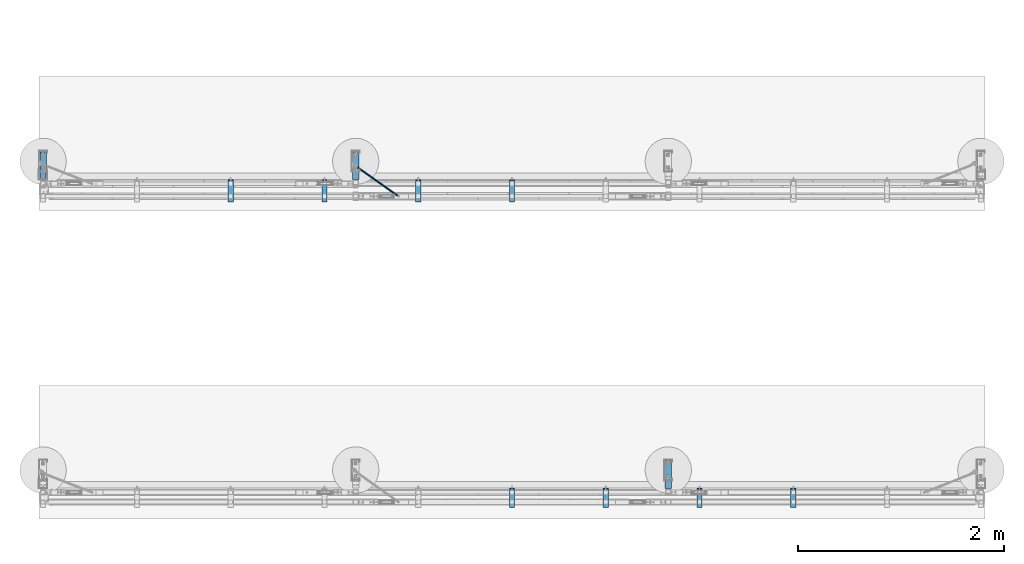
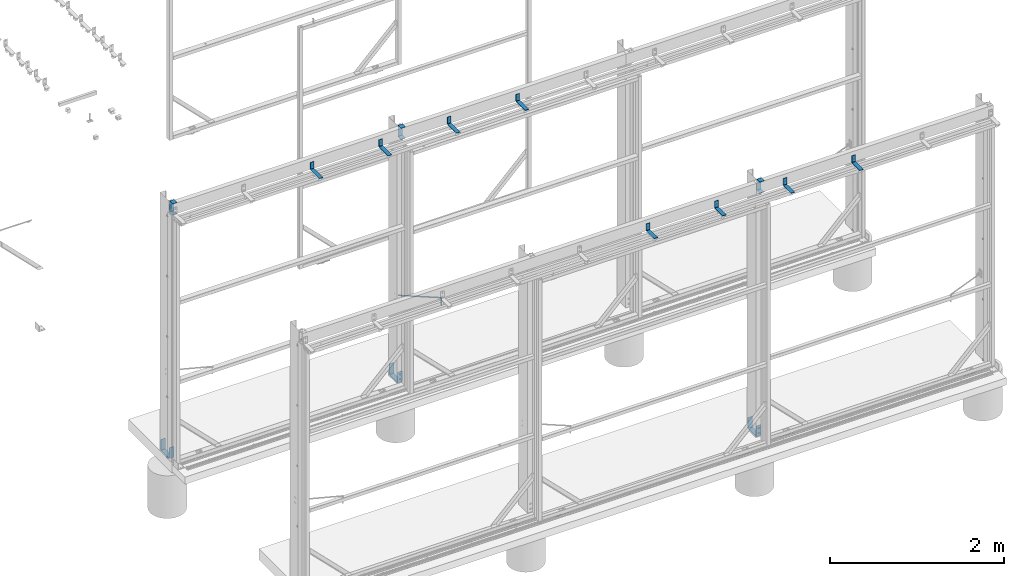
# One storey, part 81 of 91: 15 beams, 15 elements without a shape of their own.
"""IFC2X3 building model written with IfcOpenShell, lengths in millimetres."""

from ifc_helpers import new_model, si_unit, frame, origin_with_axes, place, context, subcontext, project, spatial, faceted_brep, material, type_object, element, aggregate, save


model = new_model("IFC2X3")

# Units and contexts
model_context = context("Model", 3, precision=1e-05, world=origin_with_axes())
body_context = subcontext(model_context, "Body", "Model", "MODEL_VIEW")
ifc_project = project(units=[si_unit("LENGTHUNIT", "METRE", prefix="MILLI"), si_unit("AREAUNIT", "SQUARE_METRE"), si_unit("VOLUMEUNIT", "CUBIC_METRE"), si_unit("MASSUNIT", "GRAM", prefix="KILO"), si_unit("TIMEUNIT", "SECOND"), si_unit("PLANEANGLEUNIT", "RADIAN"), si_unit("SOLIDANGLEUNIT", "STERADIAN"), si_unit("THERMODYNAMICTEMPERATUREUNIT", "DEGREE_CELSIUS"), si_unit("LUMINOUSINTENSITYUNIT", "LUMEN")], contexts=[model_context])

# Site, building, storey
site_placement = place(None, origin_with_axes())
site = spatial("IfcSite", under=ifc_project, at=site_placement, Name="Undefined", CompositionType="ELEMENT")
building_placement = place(site_placement, origin_with_axes())
building = spatial("IfcBuilding", under=site, at=building_placement, Name="Undefined", CompositionType="ELEMENT")
storey_placement = place(building_placement, origin_with_axes())
storey = spatial("IfcBuildingStorey", under=building, at=storey_placement, Name="Undefined", CompositionType="ELEMENT", Elevation=0.0)

# Assembly, beam
assembly_1_placement = place(storey_placement, origin_with_axes())
assembly_1 = element("IfcElementAssembly", 1, at=assembly_1_placement, inside=storey, Name="DOOR BRACKET", AssemblyPlace="NOTDEFINED", PredefinedType="RIGID_FRAME")
ifc_material_1 = material(Name="STEEL/250")
beam_type_1 = type_object("IfcBeamType", Name="FL6*50", PredefinedType="NOTDEFINED")
beam_1_placement = place(assembly_1_placement, frame((-112239.59, 87749.15, 3544.0), z_axis=(1.0, 0.0, 0.0), x_axis=(0.0, 0.0, -1.0)))
beam_1 = element("IfcBeam", 2, at=beam_1_placement, type_object=beam_type_1, material=ifc_material_1, Name="DOOR BRACKET", ObjectType="FL6*50", context=body_context, shape_type="Brep", body=[
    faceted_brep([(0.0, 3.0, -25.0), (0.0, 3.0, 25.0), (88.0, 3.0, 25.0), (88.0000000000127, 3.00000000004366, -25.0), (0.0, -3.0, 25.0), (0.0, -3.0, -25.0), (88.0, -3.0, -25.0), (88.0, -3.0, 25.0), (93.9999999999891, 1.39230484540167, 25.0), (93.9999999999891, 1.39230484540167, -25.0), (90.9999999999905, -3.8038475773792, -25.0), (90.9999999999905, -3.8038475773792, 25.0), (93.1961524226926, -6.00000000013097, -25.0), (93.1961524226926, -6.00000000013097, 25.0), (98.3923048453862, -3.00000000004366, 25.0), (98.3923048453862, -3.00000000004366, -25.0), (93.9999999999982, -9.00000000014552, -25.0), (93.9999999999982, -9.00000000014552, 25.0), (100.000000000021, -9.00000000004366, 25.0), (100.0, -9.0, -25.0), (100.0, -215.0, 25.0), (100.0, -215.0, -25.0), (94.0, -215.0, 25.0), (94.0, -215.0, -25.0)], [[[0, 1, 2, 3]], [[4, 5, 6, 7]], [[5, 4, 1, 0]], [[3, 2, 8, 9]], [[7, 6, 10, 11]], [[10, 12, 13, 11]], [[8, 14, 15, 9]], [[12, 16, 17, 13]], [[14, 18, 19, 15]], [[19, 18, 20, 21]], [[18, 14, 8, 2, 1, 4, 7, 11, 13, 17, 22, 20]], [[17, 16, 23, 22]], [[16, 12, 10, 6, 5, 0, 3, 9, 15, 19, 21, 23]], [[22, 23, 21, 20]]]),
])
aggregate(assembly_1, [beam_1])

assembly_2_placement = place(storey_placement, origin_with_axes())
assembly_2 = element("IfcElementAssembly", 3, at=assembly_2_placement, inside=storey, Name="DOOR BRACKET", AssemblyPlace="NOTDEFINED", PredefinedType="RIGID_FRAME")
beam_2_placement = place(assembly_2_placement, frame((-113150.84, 87749.15, 3544.0), z_axis=(1.0, 0.0, 0.0), x_axis=(0.0, 0.0, -1.0)))
beam_2 = element("IfcBeam", 4, at=beam_2_placement, type_object=beam_type_1, material=ifc_material_1, Name="DOOR BRACKET", ObjectType="FL6*50", context=body_context, shape_type="Brep", body=[
    faceted_brep([(0.0, 3.0, -25.0), (0.0, 3.0, 25.0), (88.0, 3.0, 25.0), (88.0000000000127, 3.00000000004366, -25.0), (0.0, -3.0, 25.0), (0.0, -3.0, -25.0), (88.0, -3.0, -25.0), (88.0, -3.0, 25.0), (93.9999999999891, 1.39230484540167, 25.0), (93.9999999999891, 1.39230484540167, -25.0), (90.9999999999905, -3.8038475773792, -25.0), (90.9999999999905, -3.8038475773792, 25.0), (93.1961524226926, -6.00000000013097, -25.0), (93.1961524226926, -6.00000000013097, 25.0), (98.3923048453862, -3.00000000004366, 25.0), (98.3923048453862, -3.00000000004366, -25.0), (93.9999999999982, -9.00000000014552, -25.0), (93.9999999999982, -9.00000000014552, 25.0), (100.000000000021, -9.00000000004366, 25.0), (100.0, -9.0, -25.0), (100.0, -215.0, 25.0), (100.0, -215.0, -25.0), (94.0, -215.0, 25.0), (94.0, -215.0, -25.0)], [[[0, 1, 2, 3]], [[4, 5, 6, 7]], [[5, 4, 1, 0]], [[3, 2, 8, 9]], [[7, 6, 10, 11]], [[10, 12, 13, 11]], [[8, 14, 15, 9]], [[12, 16, 17, 13]], [[14, 18, 19, 15]], [[19, 18, 20, 21]], [[18, 14, 8, 2, 1, 4, 7, 11, 13, 17, 22, 20]], [[17, 16, 23, 22]], [[16, 12, 10, 6, 5, 0, 3, 9, 15, 19, 21, 23]], [[22, 23, 21, 20]]]),
])
aggregate(assembly_2, [beam_2])

assembly_3_placement = place(storey_placement, origin_with_axes())
assembly_3 = element("IfcElementAssembly", 5, at=assembly_3_placement, inside=storey, Name="DOOR BRACKET", AssemblyPlace="NOTDEFINED", PredefinedType="RIGID_FRAME")
beam_3_placement = place(assembly_3_placement, frame((-114062.09, 87749.15, 3544.0), z_axis=(1.0, 0.0, 0.0), x_axis=(0.0, 0.0, -1.0)))
beam_3 = element("IfcBeam", 6, at=beam_3_placement, type_object=beam_type_1, material=ifc_material_1, Name="DOOR BRACKET", ObjectType="FL6*50", context=body_context, shape_type="Brep", body=[
    faceted_brep([(0.0, 3.0, -25.0), (0.0, 3.0, 25.0), (88.0, 3.0, 25.0), (88.0000000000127, 3.00000000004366, -25.0), (0.0, -3.0, 25.0), (0.0, -3.0, -25.0), (88.0, -3.0, -25.0), (88.0, -3.0, 25.0), (93.9999999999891, 1.39230484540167, 25.0), (93.9999999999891, 1.39230484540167, -25.0), (90.9999999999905, -3.8038475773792, -25.0), (90.9999999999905, -3.8038475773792, 25.0), (93.1961524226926, -6.00000000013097, -25.0), (93.1961524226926, -6.00000000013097, 25.0), (98.3923048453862, -3.00000000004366, 25.0), (98.3923048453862, -3.00000000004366, -25.0), (93.9999999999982, -9.00000000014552, -25.0), (93.9999999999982, -9.00000000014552, 25.0), (100.000000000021, -9.00000000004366, 25.0), (100.0, -9.0, -25.0), (100.0, -215.0, 25.0), (100.0, -215.0, -25.0), (94.0, -215.0, 25.0), (94.0, -215.0, -25.0)], [[[0, 1, 2, 3]], [[4, 5, 6, 7]], [[5, 4, 1, 0]], [[3, 2, 8, 9]], [[7, 6, 10, 11]], [[10, 12, 13, 11]], [[8, 14, 15, 9]], [[12, 16, 17, 13]], [[14, 18, 19, 15]], [[19, 18, 20, 21]], [[18, 14, 8, 2, 1, 4, 7, 11, 13, 17, 22, 20]], [[17, 16, 23, 22]], [[16, 12, 10, 6, 5, 0, 3, 9, 15, 19, 21, 23]], [[22, 23, 21, 20]]]),
])
aggregate(assembly_3, [beam_3])

assembly_4_placement = place(storey_placement, origin_with_axes())
assembly_4 = element("IfcElementAssembly", 7, at=assembly_4_placement, inside=storey, Name="DOOR BRACKET", AssemblyPlace="NOTDEFINED", PredefinedType="RIGID_FRAME")
beam_4_placement = place(assembly_4_placement, frame((-114973.34, 87749.15, 3544.0), z_axis=(1.0, 0.0, 0.0), x_axis=(0.0, 0.0, -1.0)))
beam_4 = element("IfcBeam", 8, at=beam_4_placement, type_object=beam_type_1, material=ifc_material_1, Name="DOOR BRACKET", ObjectType="FL6*50", context=body_context, shape_type="Brep", body=[
    faceted_brep([(0.0, 3.0, -25.0), (0.0, 3.0, 25.0), (88.0, 3.0, 25.0), (88.0000000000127, 3.00000000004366, -25.0), (0.0, -3.0, 25.0), (0.0, -3.0, -25.0), (88.0, -3.0, -25.0), (88.0, -3.0, 25.0), (93.9999999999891, 1.39230484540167, 25.0), (93.9999999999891, 1.39230484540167, -25.0), (90.9999999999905, -3.8038475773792, -25.0), (90.9999999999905, -3.8038475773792, 25.0), (93.1961524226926, -6.00000000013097, -25.0), (93.1961524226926, -6.00000000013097, 25.0), (98.3923048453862, -3.00000000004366, 25.0), (98.3923048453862, -3.00000000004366, -25.0), (93.9999999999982, -9.00000000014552, -25.0), (93.9999999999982, -9.00000000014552, 25.0), (100.000000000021, -9.00000000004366, 25.0), (100.0, -9.0, -25.0), (100.0, -215.0, 25.0), (100.0, -215.0, -25.0), (94.0, -215.0, 25.0), (94.0, -215.0, -25.0)], [[[0, 1, 2, 3]], [[4, 5, 6, 7]], [[5, 4, 1, 0]], [[3, 2, 8, 9]], [[7, 6, 10, 11]], [[10, 12, 13, 11]], [[8, 14, 15, 9]], [[12, 16, 17, 13]], [[14, 18, 19, 15]], [[19, 18, 20, 21]], [[18, 14, 8, 2, 1, 4, 7, 11, 13, 17, 22, 20]], [[17, 16, 23, 22]], [[16, 12, 10, 6, 5, 0, 3, 9, 15, 19, 21, 23]], [[22, 23, 21, 20]]]),
])
aggregate(assembly_4, [beam_4])

assembly_5_placement = place(storey_placement, origin_with_axes())
assembly_5 = element("IfcElementAssembly", 9, at=assembly_5_placement, inside=storey, Name="DOOR BRACKET", AssemblyPlace="NOTDEFINED", PredefinedType="RIGID_FRAME")
beam_5_placement = place(assembly_5_placement, frame((-109505.84, 84749.15, 3544.0), z_axis=(1.0, 0.0, 0.0), x_axis=(0.0, 0.0, -1.0)))
beam_5 = element("IfcBeam", 10, at=beam_5_placement, type_object=beam_type_1, material=ifc_material_1, Name="DOOR BRACKET", ObjectType="FL6*50", context=body_context, shape_type="Brep", body=[
    faceted_brep([(0.0, 3.0, -25.0), (0.0, 3.0, 25.0), (88.0, 3.0, 25.0), (88.0000000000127, 3.00000000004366, -25.0), (0.0, -3.0, 25.0), (0.0, -3.0, -25.0), (88.0, -3.0, -25.0), (88.0, -3.0, 25.0), (93.9999999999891, 1.39230484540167, 25.0), (93.9999999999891, 1.39230484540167, -25.0), (90.9999999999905, -3.8038475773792, -25.0), (90.9999999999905, -3.8038475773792, 25.0), (93.1961524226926, -6.00000000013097, -25.0), (93.1961524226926, -6.00000000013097, 25.0), (98.3923048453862, -3.00000000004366, 25.0), (98.3923048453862, -3.00000000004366, -25.0), (93.9999999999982, -9.00000000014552, -25.0), (93.9999999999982, -9.00000000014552, 25.0), (100.000000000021, -9.00000000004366, 25.0), (100.0, -9.0, -25.0), (100.0, -185.0, 25.0), (100.0, -185.0, -25.0), (94.0, -185.0, 25.0), (94.0, -185.0, -25.0)], [[[0, 1, 2, 3]], [[4, 5, 6, 7]], [[5, 4, 1, 0]], [[3, 2, 8, 9]], [[7, 6, 10, 11]], [[10, 12, 13, 11]], [[8, 14, 15, 9]], [[12, 16, 17, 13]], [[14, 18, 19, 15]], [[19, 18, 20, 21]], [[18, 14, 8, 2, 1, 4, 7, 11, 13, 17, 22, 20]], [[17, 16, 23, 22]], [[16, 12, 10, 6, 5, 0, 3, 9, 15, 19, 21, 23]], [[22, 23, 21, 20]]]),
])
aggregate(assembly_5, [beam_5])

assembly_6_placement = place(storey_placement, origin_with_axes())
assembly_6 = element("IfcElementAssembly", 11, at=assembly_6_placement, inside=storey, Name="DOOR BRACKET", AssemblyPlace="NOTDEFINED", PredefinedType="RIGID_FRAME")
beam_6_placement = place(assembly_6_placement, frame((-110417.09, 84749.15, 3544.0), z_axis=(1.0, 0.0, 0.0), x_axis=(0.0, 0.0, -1.0)))
beam_6 = element("IfcBeam", 12, at=beam_6_placement, type_object=beam_type_1, material=ifc_material_1, Name="DOOR BRACKET", ObjectType="FL6*50", context=body_context, shape_type="Brep", body=[
    faceted_brep([(0.0, 3.0, -25.0), (0.0, 3.0, 25.0), (88.0, 3.0, 25.0), (88.0000000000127, 3.00000000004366, -25.0), (0.0, -3.0, 25.0), (0.0, -3.0, -25.0), (88.0, -3.0, -25.0), (88.0, -3.0, 25.0), (93.9999999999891, 1.39230484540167, 25.0), (93.9999999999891, 1.39230484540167, -25.0), (90.9999999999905, -3.8038475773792, -25.0), (90.9999999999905, -3.8038475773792, 25.0), (93.1961524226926, -6.00000000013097, -25.0), (93.1961524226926, -6.00000000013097, 25.0), (98.3923048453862, -3.00000000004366, 25.0), (98.3923048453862, -3.00000000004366, -25.0), (93.9999999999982, -9.00000000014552, -25.0), (93.9999999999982, -9.00000000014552, 25.0), (100.000000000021, -9.00000000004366, 25.0), (100.0, -9.0, -25.0), (100.0, -185.0, 25.0), (100.0, -185.0, -25.0), (94.0, -185.0, 25.0), (94.0, -185.0, -25.0)], [[[0, 1, 2, 3]], [[4, 5, 6, 7]], [[5, 4, 1, 0]], [[3, 2, 8, 9]], [[7, 6, 10, 11]], [[10, 12, 13, 11]], [[8, 14, 15, 9]], [[12, 16, 17, 13]], [[14, 18, 19, 15]], [[19, 18, 20, 21]], [[18, 14, 8, 2, 1, 4, 7, 11, 13, 17, 22, 20]], [[17, 16, 23, 22]], [[16, 12, 10, 6, 5, 0, 3, 9, 15, 19, 21, 23]], [[22, 23, 21, 20]]]),
])
aggregate(assembly_6, [beam_6])

assembly_7_placement = place(storey_placement, origin_with_axes())
assembly_7 = element("IfcElementAssembly", 13, at=assembly_7_placement, inside=storey, Name="DOOR BRACKET", AssemblyPlace="NOTDEFINED", PredefinedType="RIGID_FRAME")
beam_7_placement = place(assembly_7_placement, frame((-111328.34, 84749.15, 3544.0), z_axis=(1.0, 0.0, 0.0), x_axis=(0.0, 0.0, -1.0)))
beam_7 = element("IfcBeam", 14, at=beam_7_placement, type_object=beam_type_1, material=ifc_material_1, Name="DOOR BRACKET", ObjectType="FL6*50", context=body_context, shape_type="Brep", body=[
    faceted_brep([(0.0, 3.0, -25.0), (0.0, 3.0, 25.0), (88.0, 3.0, 25.0), (88.0000000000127, 3.00000000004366, -25.0), (0.0, -3.0, 25.0), (0.0, -3.0, -25.0), (88.0, -3.0, -25.0), (88.0, -3.0, 25.0), (93.9999999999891, 1.39230484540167, 25.0), (93.9999999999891, 1.39230484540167, -25.0), (90.9999999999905, -3.8038475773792, -25.0), (90.9999999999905, -3.8038475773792, 25.0), (93.1961524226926, -6.00000000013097, -25.0), (93.1961524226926, -6.00000000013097, 25.0), (98.3923048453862, -3.00000000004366, 25.0), (98.3923048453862, -3.00000000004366, -25.0), (93.9999999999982, -9.00000000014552, -25.0), (93.9999999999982, -9.00000000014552, 25.0), (100.000000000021, -9.00000000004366, 25.0), (100.0, -9.0, -25.0), (100.0, -185.0, 25.0), (100.0, -185.0, -25.0), (94.0, -185.0, 25.0), (94.0, -185.0, -25.0)], [[[0, 1, 2, 3]], [[4, 5, 6, 7]], [[5, 4, 1, 0]], [[3, 2, 8, 9]], [[7, 6, 10, 11]], [[10, 12, 13, 11]], [[8, 14, 15, 9]], [[12, 16, 17, 13]], [[14, 18, 19, 15]], [[19, 18, 20, 21]], [[18, 14, 8, 2, 1, 4, 7, 11, 13, 17, 22, 20]], [[17, 16, 23, 22]], [[16, 12, 10, 6, 5, 0, 3, 9, 15, 19, 21, 23]], [[22, 23, 21, 20]]]),
])
aggregate(assembly_7, [beam_7])

assembly_8_placement = place(storey_placement, origin_with_axes())
assembly_8 = element("IfcElementAssembly", 15, at=assembly_8_placement, inside=storey, Name="DOOR BRACKET", AssemblyPlace="NOTDEFINED", PredefinedType="RIGID_FRAME")
beam_8_placement = place(assembly_8_placement, frame((-112239.59, 84749.15, 3544.0), z_axis=(1.0, 0.0, 0.0), x_axis=(0.0, 0.0, -1.0)))
beam_8 = element("IfcBeam", 16, at=beam_8_placement, type_object=beam_type_1, material=ifc_material_1, Name="DOOR BRACKET", ObjectType="FL6*50", context=body_context, shape_type="Brep", body=[
    faceted_brep([(0.0, 3.0, -25.0), (0.0, 3.0, 25.0), (88.0, 3.0, 25.0), (88.0000000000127, 3.00000000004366, -25.0), (0.0, -3.0, 25.0), (0.0, -3.0, -25.0), (88.0, -3.0, -25.0), (88.0, -3.0, 25.0), (93.9999999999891, 1.39230484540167, 25.0), (93.9999999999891, 1.39230484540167, -25.0), (90.9999999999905, -3.8038475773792, -25.0), (90.9999999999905, -3.8038475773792, 25.0), (93.1961524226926, -6.00000000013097, -25.0), (93.1961524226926, -6.00000000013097, 25.0), (98.3923048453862, -3.00000000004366, 25.0), (98.3923048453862, -3.00000000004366, -25.0), (93.9999999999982, -9.00000000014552, -25.0), (93.9999999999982, -9.00000000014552, 25.0), (100.000000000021, -9.00000000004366, 25.0), (100.0, -9.0, -25.0), (100.0, -185.0, 25.0), (100.0, -185.0, -25.0), (94.0, -185.0, 25.0), (94.0, -185.0, -25.0)], [[[0, 1, 2, 3]], [[4, 5, 6, 7]], [[5, 4, 1, 0]], [[3, 2, 8, 9]], [[7, 6, 10, 11]], [[10, 12, 13, 11]], [[8, 14, 15, 9]], [[12, 16, 17, 13]], [[14, 18, 19, 15]], [[19, 18, 20, 21]], [[18, 14, 8, 2, 1, 4, 7, 11, 13, 17, 22, 20]], [[17, 16, 23, 22]], [[16, 12, 10, 6, 5, 0, 3, 9, 15, 19, 21, 23]], [[22, 23, 21, 20]]]),
])
aggregate(assembly_8, [beam_8])

assembly_9_placement = place(storey_placement, origin_with_axes())
assembly_9 = element("IfcElementAssembly", 17, at=assembly_9_placement, inside=storey, Name="ROD", AssemblyPlace="NOTDEFINED", PredefinedType="RIGID_FRAME")
beam_type_2 = type_object("IfcBeamType", Name="D12", PredefinedType="NOTDEFINED")
beam_9_placement = place(assembly_9_placement, frame((-113344.657713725, 87590.149062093, 1062.33560984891), z_axis=(0.815236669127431, -0.57912794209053, 0.0), x_axis=(0.0, 0.0, 1.0)))
beam_9 = element("IfcBeam", 18, at=beam_9_placement, type_object=beam_type_2, material=ifc_material_1, Name="ROD", ObjectType="D12", context=body_context, shape_type="Brep", body=[
    faceted_brep([(0.0, -6.0, 0.0), (-1.13686837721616e-12, -4.24264068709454, -4.24264068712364), (93.5000000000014, -4.24264068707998, -4.2426406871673), (93.5000000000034, -5.99999999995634, -2.91038304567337e-11), (-2.72848410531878e-12, 1.45519152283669e-11, -5.99999999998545), (93.5, 2.91038304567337e-11, -6.00000000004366), (-2.50111042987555e-12, 4.24264068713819, -4.24264068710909), (93.5000000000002, 4.2426406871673, -4.24264068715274), (0.0, 6.00000000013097, 0.0), (93.5000000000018, 6.0000000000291, -4.36557456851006e-11), (1.13686837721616e-12, 4.24264068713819, 4.24264068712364), (93.5000000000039, 4.24264068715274, 4.24264068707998), (2.72848410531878e-12, 1.45519152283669e-11, 5.99999999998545), (93.5000000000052, 4.36557456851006e-11, 5.99999999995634), (2.50111042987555e-12, -4.24264068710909, 4.24264068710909), (93.500000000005, -4.24264068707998, 4.24264068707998), (95.7573593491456, -4.24264068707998, -4.2426406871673), (100.000000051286, -5.9999999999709, -4.36557456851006e-11), (94.0, 2.91038304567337e-11, -6.00000000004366), (95.7573592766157, 4.2426406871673, -4.24264068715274), (99.9999999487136, 6.0000000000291, -4.36557456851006e-11), (104.242640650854, 4.24264068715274, 4.24264068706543), (106.0, 4.36557456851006e-11, 5.99999999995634), (104.242640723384, -4.24264068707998, 4.24264068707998), (95.7573593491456, -4.24264066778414, -6.50000003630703), (100.000000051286, -5.99999994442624, -6.50000005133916), (94.0, 4.32191882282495e-09, -6.50000000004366), (95.7573592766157, 4.24264070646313, -6.49999996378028), (99.9999999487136, 6.00000005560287, -6.49999994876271), (104.242640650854, 4.24264077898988, -6.49999996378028), (106.0, 1.06883817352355e-07, -6.50000000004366), (104.242640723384, -4.2426405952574, -6.50000003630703), (95.757358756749, -4.24270567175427, -499.999949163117), (99.999999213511, -6.00006554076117, -499.999948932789), (94.0, -6.47542592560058e-05, -499.999949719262), (95.7573598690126, 4.24257570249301, -499.999950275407), (100.000000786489, 5.99993445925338, -499.999950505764), (104.242641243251, 4.24257459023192, -499.999950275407), (106.0, -6.63272485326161e-05, -499.999949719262), (104.242640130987, -4.24270678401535, -499.999949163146)], [[[0, 1, 2, 3]], [[1, 4, 5, 2]], [[4, 6, 7, 5]], [[6, 8, 9, 7]], [[8, 10, 11, 9]], [[10, 12, 13, 11]], [[12, 14, 15, 13]], [[14, 0, 3, 15]], [[14, 12, 10, 8, 6, 4, 1, 0]], [[3, 2, 16, 17]], [[2, 5, 18, 16]], [[5, 7, 19, 18]], [[7, 9, 20, 19]], [[9, 11, 21, 20]], [[11, 13, 22, 21]], [[13, 15, 23, 22]], [[15, 3, 17, 23]], [[17, 16, 24, 25]], [[16, 18, 26, 24]], [[18, 19, 27, 26]], [[19, 20, 28, 27]], [[20, 21, 29, 28]], [[21, 22, 30, 29]], [[22, 23, 31, 30]], [[23, 17, 25, 31]], [[25, 24, 32, 33]], [[24, 26, 34, 32]], [[26, 27, 35, 34]], [[27, 28, 36, 35]], [[28, 29, 37, 36]], [[29, 30, 38, 37]], [[30, 31, 39, 38]], [[31, 25, 33, 39]], [[34, 35, 36, 37, 38, 39, 33, 32]]]),
])
aggregate(assembly_9, [beam_9])

assembly_10_placement = place(storey_placement, origin_with_axes())
assembly_10 = element("IfcElementAssembly", 19, at=assembly_10_placement, inside=storey, Name="BASEPLATE", AssemblyPlace="NOTDEFINED", PredefinedType="RIGID_FRAME")
ifc_material_2 = material(Name="STEEL/450")
beam_type_3 = type_object("IfcBeamType", Name="PLT6*61", PredefinedType="NOTDEFINED")
beam_10_placement = place(assembly_10_placement, frame((-116795.84, 87831.55, 122.999999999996), z_axis=(1.0, 0.0, 0.0), x_axis=(0.0, 0.0, -1.0)))
beam_10 = element("IfcBeam", 20, at=beam_10_placement, type_object=beam_type_3, material=ifc_material_2, Name="BASEPLATE", ObjectType="PLT6*61", context=body_context, shape_type="Brep", body=[
    faceted_brep([(0.0, 3.0, -30.5), (0.0, 3.0, 30.5), (144.0, 3.0, 30.5), (143.999999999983, 3.00000000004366, -30.5), (0.0, -3.0, 30.5), (0.0, -3.0, -30.5), (144.0, -3.0, -30.5), (144.0, -3.0, 30.5), (146.500000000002, 3.66987298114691, 30.5), (146.500000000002, 3.66987298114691, -30.5), (149.500000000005, -1.52627944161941, -30.5), (149.500000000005, -1.52627944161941, 30.5), (153.526279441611, 2.50000000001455, -30.5), (153.526279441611, 2.50000000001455, 30.5), (148.330127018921, 5.50000000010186, 30.5), (148.330127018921, 5.50000000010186, -30.5), (155.000000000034, 8.00000000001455, -30.5), (155.000000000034, 8.00000000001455, 30.5), (149.000000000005, 8.00000000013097, 30.5), (149.0, 8.0, -30.5), (149.0, 186.200012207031, 30.5), (148.999999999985, 186.200012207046, -30.5), (155.0, 186.200012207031, -30.5), (155.0, 186.200012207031, 30.5), (148.330127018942, 188.700012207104, 30.5), (148.330127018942, 188.700012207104, -30.5), (153.526279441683, 191.700012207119, -30.5), (153.526279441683, 191.700012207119, 30.5), (149.500000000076, 195.726291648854, -30.5), (149.500000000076, 195.726291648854, 30.5), (146.500000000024, 190.530139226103, 30.5), (146.500000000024, 190.530139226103, -30.5), (144.000000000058, 197.200012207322, -30.5), (144.000000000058, 197.200012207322, 30.5), (143.999999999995, 191.20001220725, 30.5), (144.0, 191.200012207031, -30.5), (0.0, 191.200012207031, 30.5), (0.0, 191.200012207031, -30.5), (0.0, 197.200012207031, 30.5), (0.0, 197.200012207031, -30.5)], [[[0, 1, 2, 3]], [[4, 5, 6, 7]], [[5, 4, 1, 0]], [[3, 2, 8, 9]], [[7, 6, 10, 11]], [[10, 12, 13, 11]], [[8, 14, 15, 9]], [[12, 16, 17, 13]], [[14, 18, 19, 15]], [[19, 18, 20, 21]], [[17, 16, 22, 23]], [[21, 20, 24, 25]], [[23, 22, 26, 27]], [[26, 28, 29, 27]], [[24, 30, 31, 25]], [[28, 32, 33, 29]], [[30, 34, 35, 31]], [[35, 34, 36, 37]], [[34, 30, 24, 20, 18, 14, 8, 2, 1, 4, 7, 11, 13, 17, 23, 27, 29, 33, 38, 36]], [[33, 32, 39, 38]], [[32, 28, 26, 22, 16, 12, 10, 6, 5, 0, 3, 9, 15, 19, 21, 25, 31, 35, 37, 39]], [[38, 39, 37, 36]]]),
])
aggregate(assembly_10, [beam_10])

assembly_11_placement = place(storey_placement, origin_with_axes())
assembly_11 = element("IfcElementAssembly", 21, at=assembly_11_placement, inside=storey, Name="BASEPLATE", AssemblyPlace="NOTDEFINED", PredefinedType="RIGID_FRAME")
beam_11_placement = place(assembly_11_placement, frame((-113758.34, 87831.55, 122.999999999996), z_axis=(1.0, 0.0, 0.0), x_axis=(0.0, 0.0, -1.0)))
beam_11 = element("IfcBeam", 22, at=beam_11_placement, type_object=beam_type_3, material=ifc_material_2, Name="BASEPLATE", ObjectType="PLT6*61", context=body_context, shape_type="Brep", body=[
    faceted_brep([(0.0, 3.0, -30.5), (0.0, 3.0, 30.5), (144.0, 3.0, 30.5), (143.999999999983, 3.00000000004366, -30.5), (0.0, -3.0, 30.5), (0.0, -3.0, -30.5), (144.0, -3.0, -30.5), (144.0, -3.0, 30.5), (146.500000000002, 3.66987298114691, 30.5), (146.500000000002, 3.66987298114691, -30.5), (149.500000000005, -1.52627944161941, -30.5), (149.500000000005, -1.52627944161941, 30.5), (153.526279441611, 2.50000000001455, -30.5), (153.526279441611, 2.50000000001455, 30.5), (148.330127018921, 5.50000000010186, 30.5), (148.330127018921, 5.50000000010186, -30.5), (155.000000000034, 8.00000000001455, -30.5), (155.000000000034, 8.00000000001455, 30.5), (149.000000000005, 8.00000000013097, 30.5), (149.0, 8.0, -30.5), (149.0, 186.200012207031, 30.5), (148.999999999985, 186.200012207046, -30.5), (155.0, 186.200012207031, -30.5), (155.0, 186.200012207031, 30.5), (148.330127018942, 188.700012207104, 30.5), (148.330127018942, 188.700012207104, -30.5), (153.526279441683, 191.700012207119, -30.5), (153.526279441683, 191.700012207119, 30.5), (149.500000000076, 195.726291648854, -30.5), (149.500000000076, 195.726291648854, 30.5), (146.500000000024, 190.530139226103, 30.5), (146.500000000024, 190.530139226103, -30.5), (144.000000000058, 197.200012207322, -30.5), (144.000000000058, 197.200012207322, 30.5), (143.999999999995, 191.20001220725, 30.5), (144.0, 191.200012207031, -30.5), (0.0, 191.200012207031, 30.5), (0.0, 191.200012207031, -30.5), (0.0, 197.200012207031, 30.5), (0.0, 197.200012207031, -30.5)], [[[0, 1, 2, 3]], [[4, 5, 6, 7]], [[5, 4, 1, 0]], [[3, 2, 8, 9]], [[7, 6, 10, 11]], [[10, 12, 13, 11]], [[8, 14, 15, 9]], [[12, 16, 17, 13]], [[14, 18, 19, 15]], [[19, 18, 20, 21]], [[17, 16, 22, 23]], [[21, 20, 24, 25]], [[23, 22, 26, 27]], [[26, 28, 29, 27]], [[24, 30, 31, 25]], [[28, 32, 33, 29]], [[30, 34, 35, 31]], [[35, 34, 36, 37]], [[34, 30, 24, 20, 18, 14, 8, 2, 1, 4, 7, 11, 13, 17, 23, 27, 29, 33, 38, 36]], [[33, 32, 39, 38]], [[32, 28, 26, 22, 16, 12, 10, 6, 5, 0, 3, 9, 15, 19, 21, 25, 31, 35, 37, 39]], [[38, 39, 37, 36]]]),
])
aggregate(assembly_11, [beam_11])

assembly_12_placement = place(storey_placement, origin_with_axes())
assembly_12 = element("IfcElementAssembly", 23, at=assembly_12_placement, inside=storey, Name="BASEPLATE", AssemblyPlace="NOTDEFINED", PredefinedType="RIGID_FRAME")
beam_12_placement = place(assembly_12_placement, frame((-110720.84, 84831.55, 122.999999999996), z_axis=(1.0, 0.0, 0.0), x_axis=(0.0, 0.0, -1.0)))
beam_12 = element("IfcBeam", 24, at=beam_12_placement, type_object=beam_type_3, material=ifc_material_2, Name="BASEPLATE", ObjectType="PLT6*61", context=body_context, shape_type="Brep", body=[
    faceted_brep([(0.0, 3.0, -30.5), (0.0, 3.0, 30.5), (144.0, 3.0, 30.5), (143.999999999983, 3.00000000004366, -30.5), (0.0, -3.0, 30.5), (0.0, -3.0, -30.5), (144.0, -3.0, -30.5), (144.0, -3.0, 30.5), (146.500000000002, 3.66987298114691, 30.5), (146.500000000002, 3.66987298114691, -30.5), (149.500000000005, -1.52627944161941, -30.5), (149.500000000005, -1.52627944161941, 30.5), (153.526279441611, 2.50000000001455, -30.5), (153.526279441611, 2.50000000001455, 30.5), (148.330127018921, 5.50000000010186, 30.5), (148.330127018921, 5.50000000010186, -30.5), (155.000000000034, 8.00000000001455, -30.5), (155.000000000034, 8.00000000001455, 30.5), (149.000000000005, 8.00000000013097, 30.5), (149.0, 8.0, -30.5), (149.0, 186.200012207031, 30.5), (148.999999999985, 186.200012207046, -30.5), (155.0, 186.200012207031, -30.5), (155.0, 186.200012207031, 30.5), (148.330127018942, 188.700012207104, 30.5), (148.330127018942, 188.700012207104, -30.5), (153.526279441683, 191.700012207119, -30.5), (153.526279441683, 191.700012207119, 30.5), (149.500000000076, 195.726291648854, -30.5), (149.500000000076, 195.726291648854, 30.5), (146.500000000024, 190.530139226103, 30.5), (146.500000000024, 190.530139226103, -30.5), (144.000000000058, 197.200012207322, -30.5), (144.000000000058, 197.200012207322, 30.5), (143.999999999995, 191.20001220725, 30.5), (144.0, 191.200012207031, -30.5), (0.0, 191.200012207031, 30.5), (0.0, 191.200012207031, -30.5), (0.0, 197.200012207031, 30.5), (0.0, 197.200012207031, -30.5)], [[[0, 1, 2, 3]], [[4, 5, 6, 7]], [[5, 4, 1, 0]], [[3, 2, 8, 9]], [[7, 6, 10, 11]], [[10, 12, 13, 11]], [[8, 14, 15, 9]], [[12, 16, 17, 13]], [[14, 18, 19, 15]], [[19, 18, 20, 21]], [[17, 16, 22, 23]], [[21, 20, 24, 25]], [[23, 22, 26, 27]], [[26, 28, 29, 27]], [[24, 30, 31, 25]], [[28, 32, 33, 29]], [[30, 34, 35, 31]], [[35, 34, 36, 37]], [[34, 30, 24, 20, 18, 14, 8, 2, 1, 4, 7, 11, 13, 17, 23, 27, 29, 33, 38, 36]], [[33, 32, 39, 38]], [[32, 28, 26, 22, 16, 12, 10, 6, 5, 0, 3, 9, 15, 19, 21, 25, 31, 35, 37, 39]], [[38, 39, 37, 36]]]),
])
aggregate(assembly_12, [beam_12])

assembly_13_placement = place(storey_placement, origin_with_axes())
assembly_13 = element("IfcElementAssembly", 25, at=assembly_13_placement, inside=storey, Name="FASCIA BRACKET", AssemblyPlace="NOTDEFINED", PredefinedType="RIGID_FRAME")
beam_type_4 = type_object("IfcBeamType", Name="PLT1.6*60", PredefinedType="NOTDEFINED")
beam_13_placement = place(assembly_13_placement, frame((-116795.839999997, 87752.1514572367, 3597.81721782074), z_axis=(-1.0, 0.0, 0.0), x_axis=(0.0, 1.0, 0.0)))
beam_13 = element("IfcBeam", 26, at=beam_13_placement, type_object=beam_type_4, material=ifc_material_1, Name="FASCIA BRACKET", ObjectType="PLT1.6*60", context=body_context, shape_type="Brep", body=[
    faceted_brep([(0.0, 0.800000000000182, -30.0), (0.0, 0.800000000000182, 30.0), (70.0, 0.800000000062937, 30.0), (70.0, 0.800000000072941, -30.0), (0.0, -0.800000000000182, 30.0), (0.0, -0.800000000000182, -30.0), (70.0, -0.799999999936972, -30.0), (70.0, -0.799999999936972, 30.0), (71.6999999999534, 1.25551362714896, 30.0), (71.6999999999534, 1.25551362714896, -30.0), (72.4999999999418, -0.130127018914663, -30.0), (72.4999999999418, -0.130127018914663, 30.0), (74.3301270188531, 1.69999999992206, -30.0), (74.3301270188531, 1.69999999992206, 30.0), (72.9444863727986, 2.4999999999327, 30.0), (72.9444863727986, 2.4999999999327, -30.0), (74.9999999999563, 4.19999999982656, -30.0), (74.9999999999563, 4.19999999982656, 30.0), (73.399999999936, 4.1999999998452, 30.0), (73.3999999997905, 4.19999999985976, -30.0), (73.3999999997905, 151.399996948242, 30.0), (73.3999999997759, 151.399996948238, -30.0), (74.9999999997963, 151.399996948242, -30.0), (74.9999999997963, 151.399996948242, 30.0), (72.9444863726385, 153.099996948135, 30.0), (72.9444863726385, 153.099996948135, -30.0), (74.3301270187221, 153.89999694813, -30.0), (74.3301270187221, 153.89999694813, 30.0), (72.499999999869, 155.73012396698, -30.0), (72.499999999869, 155.73012396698, 30.0), (71.699999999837, 154.344483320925, 30.0), (71.699999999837, 154.344483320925, -30.0), (69.9999999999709, 156.399996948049, -30.0), (69.9999999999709, 156.399996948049, 30.0), (69.9999999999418, 154.799996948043, 30.0), (70.0, 154.799996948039, -30.0), (4.36557456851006e-10, 154.799996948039, 30.0), (4.36557456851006e-10, 154.799996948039, -30.0), (4.36557456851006e-10, 156.399996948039, 30.0), (4.36557456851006e-10, 156.399996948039, -30.0)], [[[0, 1, 2, 3]], [[4, 5, 6, 7]], [[5, 4, 1, 0]], [[3, 2, 8, 9]], [[7, 6, 10, 11]], [[10, 12, 13, 11]], [[8, 14, 15, 9]], [[12, 16, 17, 13]], [[14, 18, 19, 15]], [[19, 18, 20, 21]], [[17, 16, 22, 23]], [[21, 20, 24, 25]], [[23, 22, 26, 27]], [[26, 28, 29, 27]], [[24, 30, 31, 25]], [[28, 32, 33, 29]], [[30, 34, 35, 31]], [[35, 34, 36, 37]], [[34, 30, 24, 20, 18, 14, 8, 2, 1, 4, 7, 11, 13, 17, 23, 27, 29, 33, 38, 36]], [[33, 32, 39, 38]], [[32, 28, 26, 22, 16, 12, 10, 6, 5, 0, 3, 9, 15, 19, 21, 25, 31, 35, 37, 39]], [[38, 39, 37, 36]]]),
])
aggregate(assembly_13, [beam_13])

assembly_14_placement = place(storey_placement, origin_with_axes())
assembly_14 = element("IfcElementAssembly", 27, at=assembly_14_placement, inside=storey, Name="FASCIA BRACKET", AssemblyPlace="NOTDEFINED", PredefinedType="RIGID_FRAME")
beam_14_placement = place(assembly_14_placement, frame((-113758.339999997, 87752.1514572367, 3597.8172178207), z_axis=(-1.0, 0.0, 0.0), x_axis=(0.0, 1.0, 0.0)))
beam_14 = element("IfcBeam", 28, at=beam_14_placement, type_object=beam_type_4, material=ifc_material_1, Name="FASCIA BRACKET", ObjectType="PLT1.6*60", context=body_context, shape_type="Brep", body=[
    faceted_brep([(0.0, 0.800000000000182, -30.0), (0.0, 0.800000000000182, 30.0), (70.0, 0.800000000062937, 30.0), (70.0, 0.800000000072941, -30.0), (0.0, -0.800000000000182, 30.0), (0.0, -0.800000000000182, -30.0), (70.0, -0.799999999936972, -30.0), (70.0, -0.799999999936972, 30.0), (71.6999999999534, 1.25551362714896, 30.0), (71.6999999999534, 1.25551362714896, -30.0), (72.4999999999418, -0.130127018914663, -30.0), (72.4999999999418, -0.130127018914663, 30.0), (74.3301270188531, 1.69999999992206, -30.0), (74.3301270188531, 1.69999999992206, 30.0), (72.9444863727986, 2.4999999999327, 30.0), (72.9444863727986, 2.4999999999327, -30.0), (74.9999999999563, 4.19999999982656, -30.0), (74.9999999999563, 4.19999999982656, 30.0), (73.399999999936, 4.1999999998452, 30.0), (73.3999999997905, 4.19999999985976, -30.0), (73.3999999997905, 151.399996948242, 30.0), (73.3999999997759, 151.399996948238, -30.0), (74.9999999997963, 151.399996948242, -30.0), (74.9999999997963, 151.399996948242, 30.0), (72.9444863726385, 153.099996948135, 30.0), (72.9444863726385, 153.099996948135, -30.0), (74.3301270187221, 153.89999694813, -30.0), (74.3301270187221, 153.89999694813, 30.0), (72.499999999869, 155.73012396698, -30.0), (72.499999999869, 155.73012396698, 30.0), (71.699999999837, 154.344483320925, 30.0), (71.699999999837, 154.344483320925, -30.0), (69.9999999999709, 156.399996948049, -30.0), (69.9999999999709, 156.399996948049, 30.0), (69.9999999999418, 154.799996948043, 30.0), (70.0, 154.799996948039, -30.0), (4.36557456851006e-10, 154.799996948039, 30.0), (4.36557456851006e-10, 154.799996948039, -30.0), (4.36557456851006e-10, 156.399996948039, 30.0), (4.36557456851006e-10, 156.399996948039, -30.0)], [[[0, 1, 2, 3]], [[4, 5, 6, 7]], [[5, 4, 1, 0]], [[3, 2, 8, 9]], [[7, 6, 10, 11]], [[10, 12, 13, 11]], [[8, 14, 15, 9]], [[12, 16, 17, 13]], [[14, 18, 19, 15]], [[19, 18, 20, 21]], [[17, 16, 22, 23]], [[21, 20, 24, 25]], [[23, 22, 26, 27]], [[26, 28, 29, 27]], [[24, 30, 31, 25]], [[28, 32, 33, 29]], [[30, 34, 35, 31]], [[35, 34, 36, 37]], [[34, 30, 24, 20, 18, 14, 8, 2, 1, 4, 7, 11, 13, 17, 23, 27, 29, 33, 38, 36]], [[33, 32, 39, 38]], [[32, 28, 26, 22, 16, 12, 10, 6, 5, 0, 3, 9, 15, 19, 21, 25, 31, 35, 37, 39]], [[38, 39, 37, 36]]]),
])
aggregate(assembly_14, [beam_14])

assembly_15_placement = place(storey_placement, origin_with_axes())
assembly_15 = element("IfcElementAssembly", 29, at=assembly_15_placement, inside=storey, Name="FASCIA BRACKET", AssemblyPlace="NOTDEFINED", PredefinedType="RIGID_FRAME")
beam_15_placement = place(assembly_15_placement, frame((-110720.839999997, 84749.144456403, 3597.81838258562), z_axis=(-1.0, 0.0, 0.0), x_axis=(0.0, 1.0, 0.0)))
beam_15 = element("IfcBeam", 30, at=beam_15_placement, type_object=beam_type_4, material=ifc_material_1, Name="FASCIA BRACKET", ObjectType="PLT1.6*60", context=body_context, shape_type="Brep", body=[
    faceted_brep([(0.0, 0.800000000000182, -30.0), (0.0, 0.800000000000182, 30.0), (70.0, 0.800000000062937, 30.0), (70.0, 0.800000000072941, -30.0), (0.0, -0.800000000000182, 30.0), (0.0, -0.800000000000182, -30.0), (70.0, -0.799999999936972, -30.0), (70.0, -0.799999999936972, 30.0), (71.6999999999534, 1.25551362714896, 30.0), (71.6999999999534, 1.25551362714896, -30.0), (72.4999999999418, -0.130127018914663, -30.0), (72.4999999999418, -0.130127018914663, 30.0), (74.3301270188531, 1.69999999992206, -30.0), (74.3301270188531, 1.69999999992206, 30.0), (72.9444863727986, 2.4999999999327, 30.0), (72.9444863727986, 2.4999999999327, -30.0), (74.9999999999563, 4.19999999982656, -30.0), (74.9999999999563, 4.19999999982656, 30.0), (73.399999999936, 4.1999999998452, 30.0), (73.3999999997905, 4.19999999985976, -30.0), (73.3999999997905, 151.399996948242, 30.0), (73.3999999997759, 151.399996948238, -30.0), (74.9999999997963, 151.399996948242, -30.0), (74.9999999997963, 151.399996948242, 30.0), (72.9444863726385, 153.099996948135, 30.0), (72.9444863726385, 153.099996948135, -30.0), (74.3301270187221, 153.89999694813, -30.0), (74.3301270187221, 153.89999694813, 30.0), (72.499999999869, 155.73012396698, -30.0), (72.499999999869, 155.73012396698, 30.0), (71.699999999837, 154.344483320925, 30.0), (71.699999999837, 154.344483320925, -30.0), (69.9999999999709, 156.399996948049, -30.0), (69.9999999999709, 156.399996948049, 30.0), (69.9999999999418, 154.799996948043, 30.0), (70.0, 154.799996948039, -30.0), (4.36557456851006e-10, 154.799996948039, 30.0), (4.36557456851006e-10, 154.799996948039, -30.0), (4.36557456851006e-10, 156.399996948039, 30.0), (4.36557456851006e-10, 156.399996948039, -30.0)], [[[0, 1, 2, 3]], [[4, 5, 6, 7]], [[5, 4, 1, 0]], [[3, 2, 8, 9]], [[7, 6, 10, 11]], [[10, 12, 13, 11]], [[8, 14, 15, 9]], [[12, 16, 17, 13]], [[14, 18, 19, 15]], [[19, 18, 20, 21]], [[17, 16, 22, 23]], [[21, 20, 24, 25]], [[23, 22, 26, 27]], [[26, 28, 29, 27]], [[24, 30, 31, 25]], [[28, 32, 33, 29]], [[30, 34, 35, 31]], [[35, 34, 36, 37]], [[34, 30, 24, 20, 18, 14, 8, 2, 1, 4, 7, 11, 13, 17, 23, 27, 29, 33, 38, 36]], [[33, 32, 39, 38]], [[32, 28, 26, 22, 16, 12, 10, 6, 5, 0, 3, 9, 15, 19, 21, 25, 31, 35, 37, 39]], [[38, 39, 37, 36]]]),
])
aggregate(assembly_15, [beam_15])

save(model, "model.ifc")
